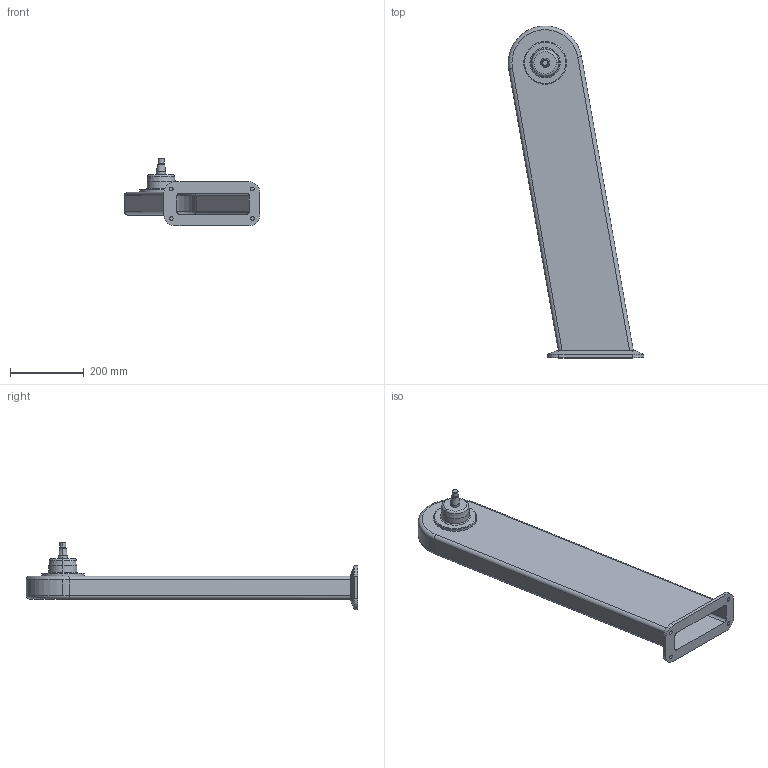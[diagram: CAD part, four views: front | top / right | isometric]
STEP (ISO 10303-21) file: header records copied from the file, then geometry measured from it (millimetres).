
FILE_DESCRIPTION (( 'STEP AP214' ), '1' );
FILE_NAME ('WP800_H800_-10.STEP', '2014-06-26T12:52:32', ( '' ), ( '' ), 'SwSTEP 2.0', 'SolidWorks 2014', '' );
FILE_SCHEMA (( 'AUTOMOTIVE_DESIGN' ));
Length unit declared in the file: millimetre
Products named in the file (1): WP800_H800_-10
Bounding box: 367.54 x 900 x 183.29 mm (x, y, z)
Volume: 1926870.2 mm3; surface area: 956645.9 mm2
Topology: 1 solids, 1 shells, 90 faces, 196 edges, 118 vertices
Faces by surface type: cylinder 38, plane 26, cone 16, torus 10
Entity records: 2490 total; most frequent: DIRECTION 466, CARTESIAN_POINT 429, ORIENTED_EDGE 392, EDGE_CURVE 196, AXIS2_PLACEMENT_3D 187, VERTEX_POINT 118, EDGE_LOOP 102, CIRCLE 96
